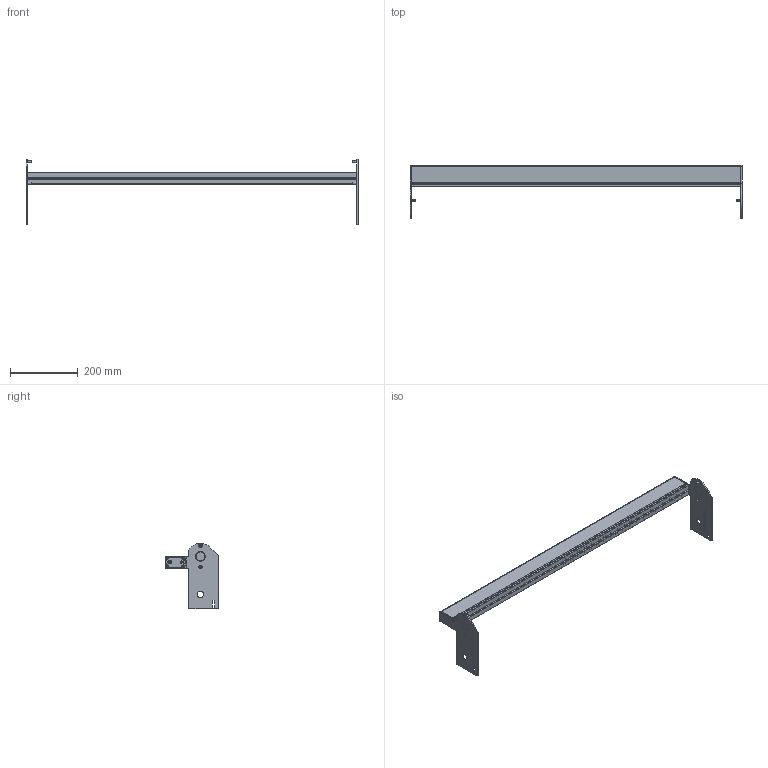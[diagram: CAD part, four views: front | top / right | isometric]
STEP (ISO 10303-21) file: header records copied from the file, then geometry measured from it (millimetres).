
FILE_DESCRIPTION((''),'2;1');
FILE_NAME('350712-38_ASM','2023-03-22T',('jenni.wallner'),(''),'PRO/ENGINEER BY PARAMETRIC TECHNOLOGY CORPORATION, 2012420','PRO/ENGINEER BY PARAMETRIC TECHNOLOGY CORPORATION, 2012420','');
FILE_SCHEMA(('CONFIG_CONTROL_DESIGN'));
Length unit declared in the file: inch
Products named in the file (6): 350669-38; 350667; 350668; 930412M; 930516M; 350712-38_ASM
Assembly tree (11 placements, depth 2):
  350712-38_ASM
    350669-38
    350667
    350668
    930412M  x4
    930516M  x4
Bounding box: 977.54 x 158.09 x 193.27 mm (x, y, z)
Volume: 878446 mm3; surface area: 570826.7 mm2
Topology: 11 solids, 11 shells, 334 faces, 872 edges, 568 vertices
Faces by surface type: plane 150, cylinder 136, cone 48
Entity records: 7773 total; most frequent: DIRECTION 1398, CARTESIAN_POINT 1317, ORIENTED_EDGE 1288, EDGE_CURVE 644, AXIS2_PLACEMENT_3D 505, VERTEX_POINT 424, VECTOR 388, LINE 388
